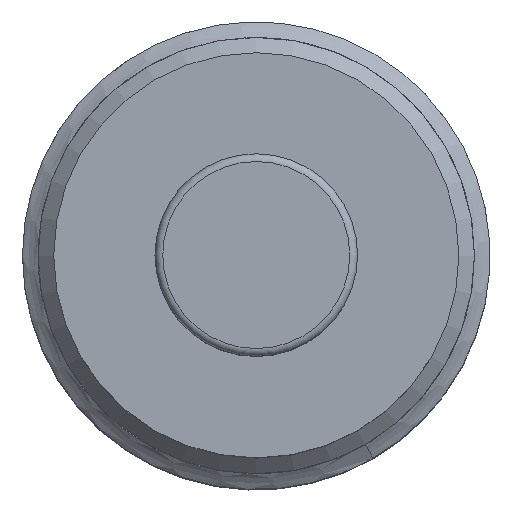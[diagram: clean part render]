
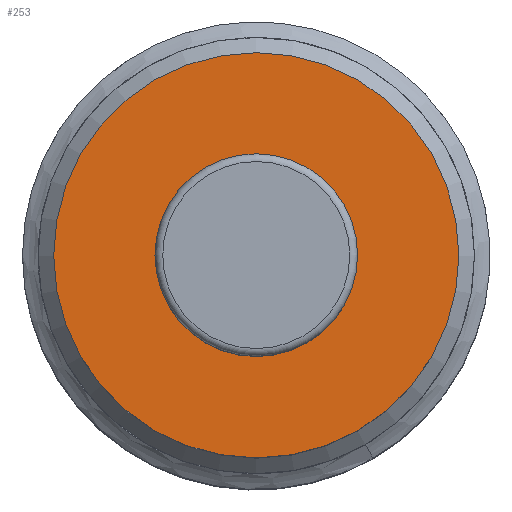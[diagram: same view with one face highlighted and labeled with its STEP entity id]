
A CAD part, top view. The second image highlights one B-rep face of the part: STEP entity #253.
In plain terms, the highlighted planar face has unit normal (0, 0, 1).
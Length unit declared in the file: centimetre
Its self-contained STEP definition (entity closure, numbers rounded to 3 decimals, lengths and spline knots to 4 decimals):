
#153=VERTEX_POINT('',#3738);
#156=VERTEX_POINT('',#3746);
#169=EDGE_CURVE('',#153,#153,#499,.T.);
#172=EDGE_CURVE('',#156,#156,#502,.T.);
#197=ORIENTED_EDGE('',*,*,#172,.T.);
#198=ORIENTED_EDGE('',*,*,#169,.F.);
#219=EDGE_LOOP('',(#197));
#220=EDGE_LOOP('',(#198));
#238=FACE_BOUND('',#219,.T.);
#239=FACE_BOUND('',#220,.T.);
#253=ADVANCED_FACE('',(#238,#239),#663,.T.);
#499=CIRCLE('',#613,1.3);
#502=CIRCLE('',#618,0.65);
#613=AXIS2_PLACEMENT_3D('',#3737,#783,#784);
#618=AXIS2_PLACEMENT_3D('',#3745,#792,#793);
#620=AXIS2_PLACEMENT_3D('',#3748,#795,$);
#663=PLANE('',#620);
#783=DIRECTION('',(0.,0.,-1.));
#784=DIRECTION('',(1.3,0.,0.));
#792=DIRECTION('',(0.,0.,-1.));
#793=DIRECTION('',(0.65,0.,0.));
#795=DIRECTION('',(0.,0.,1.));
#3737=CARTESIAN_POINT('',(0.,0.,5.2));
#3738=CARTESIAN_POINT('',(1.3,0.,5.2));
#3745=CARTESIAN_POINT('',(0.,0.,5.2));
#3746=CARTESIAN_POINT('',(0.65,0.,5.2));
#3748=CARTESIAN_POINT('',(0.,0.,5.2));
